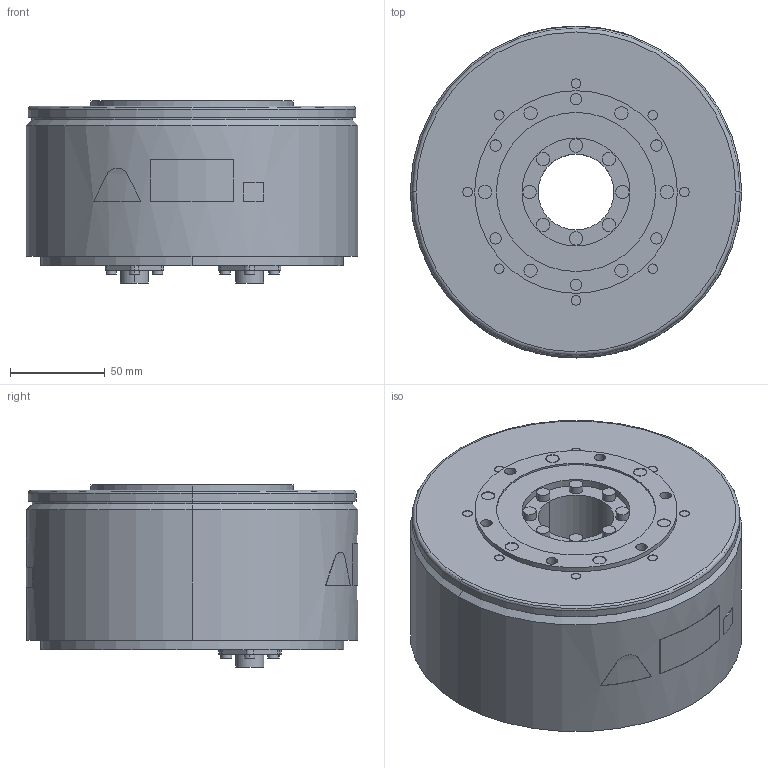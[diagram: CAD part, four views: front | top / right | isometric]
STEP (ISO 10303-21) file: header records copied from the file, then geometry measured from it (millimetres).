
FILE_DESCRIPTION (( 'STEP AP203' ), '1' );
FILE_NAME ('sgm7f_17c_a1_.STEP', '2016-07-24T06:27:05', ( '匠エンジニアリング山之内' ), ( 'TAKUMI-Engniaring' ), 'SwSTEP 2.0', 'SolidWorks 2006303', '' );
FILE_SCHEMA (( 'CONFIG_CONTROL_DESIGN' ));
Length unit declared in the file: millimetre
Products named in the file (1): sgm7f_17c_a1_
Bounding box: 175 x 175.2 x 96.1 mm (x, y, z)
Volume: 1893053.8 mm3; surface area: 135944.9 mm2
Topology: 1 solids, 1 shells, 326 faces, 709 edges, 470 vertices
Faces by surface type: cylinder 182, plane 138, cone 4, torus 2
Entity records: 9208 total; most frequent: DIRECTION 1743, CARTESIAN_POINT 1574, ORIENTED_EDGE 1418, AXIS2_PLACEMENT_3D 713, EDGE_CURVE 709, VERTEX_POINT 470, EDGE_LOOP 413, CIRCLE 386
